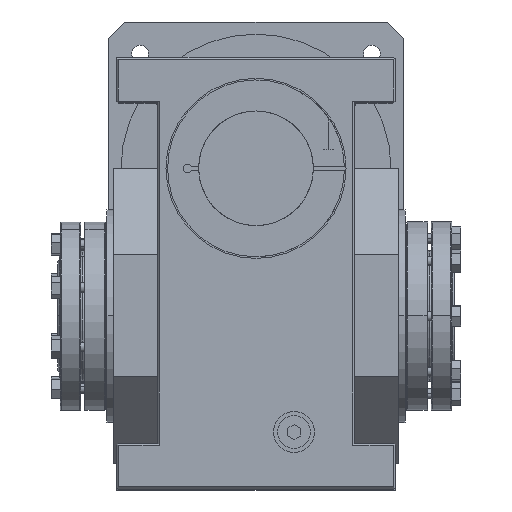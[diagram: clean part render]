
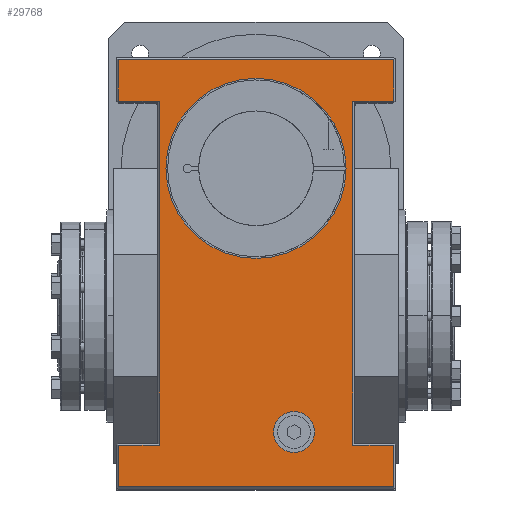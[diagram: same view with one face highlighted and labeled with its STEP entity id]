
A CAD part, top view. The second image highlights one B-rep face of the part: STEP entity #29768.
In plain terms, the highlighted planar face has unit normal (0, 0, 1).
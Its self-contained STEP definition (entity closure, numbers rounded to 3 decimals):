
#796 = CIRCLE ( 'NONE', #45702, 12.5 ) ;
#854 = CARTESIAN_POINT ( 'NONE',  ( 59., 131., 114. ) ) ;
#1025 = CARTESIAN_POINT ( 'NONE',  ( 23.262, -71., 114. ) ) ;
#1775 = VERTEX_POINT ( 'NONE', #47649 ) ;
#2264 = CARTESIAN_POINT ( 'NONE',  ( -59., 131., 114. ) ) ;
#2356 = EDGE_CURVE ( 'NONE', #1775, #33389, #36486, .T. ) ;
#2589 = ORIENTED_EDGE ( 'NONE', *, *, #7522, .T. ) ;
#3248 = CARTESIAN_POINT ( 'NONE',  ( 84., 156.5, 114. ) ) ;
#3418 = EDGE_CURVE ( 'NONE', #7228, #25321, #42132, .T. ) ;
#3669 = LINE ( 'NONE', #25792, #32475 ) ;
#4827 = DIRECTION ( 'NONE',  ( 0., 1., 0. ) ) ;
#5008 = CARTESIAN_POINT ( 'NONE',  ( 59., 130., 114. ) ) ;
#7228 = VERTEX_POINT ( 'NONE', #42495 ) ;
#7522 = EDGE_CURVE ( 'NONE', #10104, #28999, #3669, .T. ) ;
#7692 = CARTESIAN_POINT ( 'NONE',  ( 85., 131., 114. ) ) ;
#7927 = DIRECTION ( 'NONE',  ( 0., 0., -1. ) ) ;
#8232 = CIRCLE ( 'NONE', #19233, 12.5 ) ;
#8671 = FACE_BOUND ( 'NONE', #41370, .T. ) ;
#9368 = ORIENTED_EDGE ( 'NONE', *, *, #24333, .T. ) ;
#9705 = CARTESIAN_POINT ( 'NONE',  ( -84., 158., 114. ) ) ;
#9734 = CARTESIAN_POINT ( 'NONE',  ( -84., -104.5, 114. ) ) ;
#10104 = VERTEX_POINT ( 'NONE', #2264 ) ;
#10141 = DIRECTION ( 'NONE',  ( 0., -1., 0. ) ) ;
#10532 = CARTESIAN_POINT ( 'NONE',  ( 35.762, -71., 114. ) ) ;
#10993 = LINE ( 'NONE', #15318, #16193 ) ;
#11541 = VECTOR ( 'NONE', #10141, 1000. ) ;
#11829 = DIRECTION ( 'NONE',  ( 0., 0., 1. ) ) ;
#13034 = ORIENTED_EDGE ( 'NONE', *, *, #25945, .F. ) ;
#13731 = EDGE_CURVE ( 'NONE', #20826, #16561, #10993, .T. ) ;
#14148 = VERTEX_POINT ( 'NONE', #41515 ) ;
#14708 = LINE ( 'NONE', #27321, #45169 ) ;
#15318 = CARTESIAN_POINT ( 'NONE',  ( 85., 156.5, 114. ) ) ;
#15326 = DIRECTION ( 'NONE',  ( 0., -1., 0. ) ) ;
#15534 = DIRECTION ( 'NONE',  ( 1., 0., 0. ) ) ;
#16193 = VECTOR ( 'NONE', #40998, 1000. ) ;
#16218 = EDGE_CURVE ( 'NONE', #18034, #1775, #29132, .T. ) ;
#16561 = VERTEX_POINT ( 'NONE', #17412 ) ;
#16797 = ORIENTED_EDGE ( 'NONE', *, *, #33447, .F. ) ;
#16943 = DIRECTION ( 'NONE',  ( 0., 1., 0. ) ) ;
#16972 = CARTESIAN_POINT ( 'NONE',  ( 84., -78., 114. ) ) ;
#17273 = DIRECTION ( 'NONE',  ( 0., -1., 0. ) ) ;
#17278 = ORIENTED_EDGE ( 'NONE', *, *, #3418, .F. ) ;
#17412 = CARTESIAN_POINT ( 'NONE',  ( -84., 156.5, 114. ) ) ;
#18034 = VERTEX_POINT ( 'NONE', #31364 ) ;
#18389 = VECTOR ( 'NONE', #17273, 1000. ) ;
#18567 = VERTEX_POINT ( 'NONE', #854 ) ;
#18782 = DIRECTION ( 'NONE',  ( 1., 0., 0. ) ) ;
#19233 = AXIS2_PLACEMENT_3D ( 'NONE', #1025, #37808, #15534 ) ;
#19644 = ORIENTED_EDGE ( 'NONE', *, *, #39389, .T. ) ;
#20605 = ORIENTED_EDGE ( 'NONE', *, *, #13731, .T. ) ;
#20826 = VERTEX_POINT ( 'NONE', #3248 ) ;
#22438 = CARTESIAN_POINT ( 'NONE',  ( 85., 158., 114. ) ) ;
#22844 = CARTESIAN_POINT ( 'NONE',  ( 85., -104.5, 114. ) ) ;
#22885 = CARTESIAN_POINT ( 'NONE',  ( 84., 131., 114. ) ) ;
#23513 = CIRCLE ( 'NONE', #40888, 55. ) ;
#23869 = ORIENTED_EDGE ( 'NONE', *, *, #39193, .T. ) ;
#24333 = EDGE_CURVE ( 'NONE', #33389, #18567, #32599, .T. ) ;
#24800 = FACE_OUTER_BOUND ( 'NONE', #25359, .T. ) ;
#25010 = CARTESIAN_POINT ( 'NONE',  ( 23.262, -71., 114. ) ) ;
#25043 = EDGE_LOOP ( 'NONE', ( #13034, #17278 ) ) ;
#25219 = VERTEX_POINT ( 'NONE', #10532 ) ;
#25321 = VERTEX_POINT ( 'NONE', #25681 ) ;
#25327 = ORIENTED_EDGE ( 'NONE', *, *, #43596, .T. ) ;
#25359 = EDGE_LOOP ( 'NONE', ( #43665, #39818, #20605, #35841, #19644, #2589, #23869, #30488, #25327, #32578, #35618, #9368 ) ) ;
#25615 = VECTOR ( 'NONE', #41512, 1000. ) ;
#25681 = CARTESIAN_POINT ( 'NONE',  ( -55., 90., 114. ) ) ;
#25707 = VECTOR ( 'NONE', #42694, 1000. ) ;
#25792 = CARTESIAN_POINT ( 'NONE',  ( -59., -78., 114. ) ) ;
#25945 = EDGE_CURVE ( 'NONE', #25321, #7228, #23513, .T. ) ;
#26438 = CARTESIAN_POINT ( 'NONE',  ( 85., -79., 114. ) ) ;
#26879 = DIRECTION ( 'NONE',  ( 0., 0., 1. ) ) ;
#27321 = CARTESIAN_POINT ( 'NONE',  ( -85., -79., 114. ) ) ;
#27975 = ORIENTED_EDGE ( 'NONE', *, *, #39981, .F. ) ;
#28472 = CARTESIAN_POINT ( 'NONE',  ( -84., 158., 114. ) ) ;
#28999 = VERTEX_POINT ( 'NONE', #44054 ) ;
#29132 = LINE ( 'NONE', #16972, #25707 ) ;
#29354 = VERTEX_POINT ( 'NONE', #37365 ) ;
#29609 = VECTOR ( 'NONE', #43222, 1000. ) ;
#29768 = ADVANCED_FACE ( 'NONE', ( #46617, #8671, #24800 ), #47610, .F. ) ;
#30261 = EDGE_CURVE ( 'NONE', #32708, #41788, #33413, .T. ) ;
#30449 = CARTESIAN_POINT ( 'NONE',  ( 59., -79., 114. ) ) ;
#30463 = LINE ( 'NONE', #9705, #18389 ) ;
#30488 = ORIENTED_EDGE ( 'NONE', *, *, #30261, .T. ) ;
#30730 = DIRECTION ( 'NONE',  ( 0., 1., 0. ) ) ;
#31364 = CARTESIAN_POINT ( 'NONE',  ( 84., -104.5, 114. ) ) ;
#31868 = CARTESIAN_POINT ( 'NONE',  ( 84., 156.5, 114. ) ) ;
#32012 = VECTOR ( 'NONE', #16943, 1000. ) ;
#32366 = DIRECTION ( 'NONE',  ( 1., 0., 0. ) ) ;
#32475 = VECTOR ( 'NONE', #15326, 1000. ) ;
#32578 = ORIENTED_EDGE ( 'NONE', *, *, #16218, .T. ) ;
#32599 = LINE ( 'NONE', #5008, #38873 ) ;
#32708 = VERTEX_POINT ( 'NONE', #43577 ) ;
#32889 = AXIS2_PLACEMENT_3D ( 'NONE', #22438, #7927, #40862 ) ;
#33389 = VERTEX_POINT ( 'NONE', #30449 ) ;
#33413 = LINE ( 'NONE', #28472, #11541 ) ;
#33447 = EDGE_CURVE ( 'NONE', #14148, #25219, #8232, .T. ) ;
#33591 = EDGE_CURVE ( 'NONE', #18567, #40128, #34665, .T. ) ;
#33854 = CARTESIAN_POINT ( 'NONE',  ( 0., 90., 114. ) ) ;
#34665 = LINE ( 'NONE', #7692, #39812 ) ;
#35618 = ORIENTED_EDGE ( 'NONE', *, *, #2356, .T. ) ;
#35838 = AXIS2_PLACEMENT_3D ( 'NONE', #33854, #11829, #41226 ) ;
#35841 = ORIENTED_EDGE ( 'NONE', *, *, #37753, .T. ) ;
#36486 = LINE ( 'NONE', #26438, #25615 ) ;
#36954 = DIRECTION ( 'NONE',  ( 1., 0., 0. ) ) ;
#37365 = CARTESIAN_POINT ( 'NONE',  ( -84., 131., 114. ) ) ;
#37753 = EDGE_CURVE ( 'NONE', #16561, #29354, #30463, .T. ) ;
#37808 = DIRECTION ( 'NONE',  ( 0., 0., 1. ) ) ;
#38873 = VECTOR ( 'NONE', #30730, 1000. ) ;
#39193 = EDGE_CURVE ( 'NONE', #28999, #32708, #14708, .T. ) ;
#39353 = LINE ( 'NONE', #39806, #29609 ) ;
#39389 = EDGE_CURVE ( 'NONE', #29354, #10104, #39353, .T. ) ;
#39806 = CARTESIAN_POINT ( 'NONE',  ( -60., 131., 114. ) ) ;
#39812 = VECTOR ( 'NONE', #18782, 1000. ) ;
#39818 = ORIENTED_EDGE ( 'NONE', *, *, #43246, .T. ) ;
#39981 = EDGE_CURVE ( 'NONE', #25219, #14148, #796, .T. ) ;
#40128 = VERTEX_POINT ( 'NONE', #22885 ) ;
#40359 = VECTOR ( 'NONE', #36954, 1000. ) ;
#40862 = DIRECTION ( 'NONE',  ( 0., 1., 0. ) ) ;
#40888 = AXIS2_PLACEMENT_3D ( 'NONE', #45166, #26879, #4827 ) ;
#40998 = DIRECTION ( 'NONE',  ( -1., 0., 0. ) ) ;
#41226 = DIRECTION ( 'NONE',  ( 0., 1., 0. ) ) ;
#41370 = EDGE_LOOP ( 'NONE', ( #27975, #16797 ) ) ;
#41512 = DIRECTION ( 'NONE',  ( -1., 0., 0. ) ) ;
#41515 = CARTESIAN_POINT ( 'NONE',  ( 10.762, -71., 114. ) ) ;
#41788 = VERTEX_POINT ( 'NONE', #9734 ) ;
#41794 = LINE ( 'NONE', #31868, #32012 ) ;
#42078 = DIRECTION ( 'NONE',  ( -1., 0., 0. ) ) ;
#42132 = CIRCLE ( 'NONE', #35838, 55. ) ;
#42495 = CARTESIAN_POINT ( 'NONE',  ( 55., 90., 114. ) ) ;
#42694 = DIRECTION ( 'NONE',  ( 0., 1., 0. ) ) ;
#43222 = DIRECTION ( 'NONE',  ( 1., 0., 0. ) ) ;
#43246 = EDGE_CURVE ( 'NONE', #40128, #20826, #41794, .T. ) ;
#43577 = CARTESIAN_POINT ( 'NONE',  ( -84., -79., 114. ) ) ;
#43596 = EDGE_CURVE ( 'NONE', #41788, #18034, #45537, .T. ) ;
#43665 = ORIENTED_EDGE ( 'NONE', *, *, #33591, .T. ) ;
#44054 = CARTESIAN_POINT ( 'NONE',  ( -59., -79., 114. ) ) ;
#45166 = CARTESIAN_POINT ( 'NONE',  ( 0., 90., 114. ) ) ;
#45169 = VECTOR ( 'NONE', #42078, 1000. ) ;
#45537 = LINE ( 'NONE', #22844, #40359 ) ;
#45702 = AXIS2_PLACEMENT_3D ( 'NONE', #25010, #47122, #32366 ) ;
#46617 = FACE_BOUND ( 'NONE', #25043, .T. ) ;
#47122 = DIRECTION ( 'NONE',  ( 0., 0., 1. ) ) ;
#47610 = PLANE ( 'NONE',  #32889 ) ;
#47649 = CARTESIAN_POINT ( 'NONE',  ( 84., -79., 114. ) ) ;
